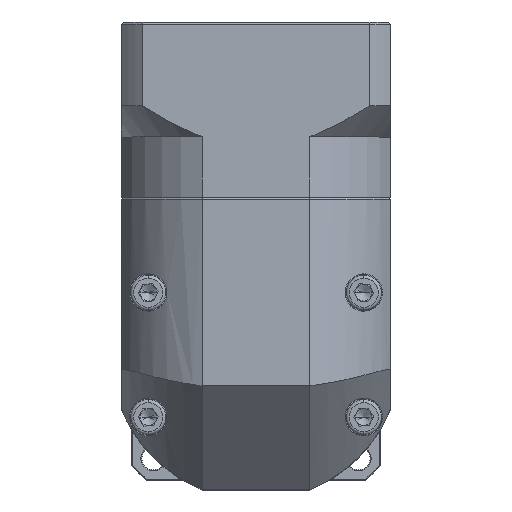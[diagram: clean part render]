
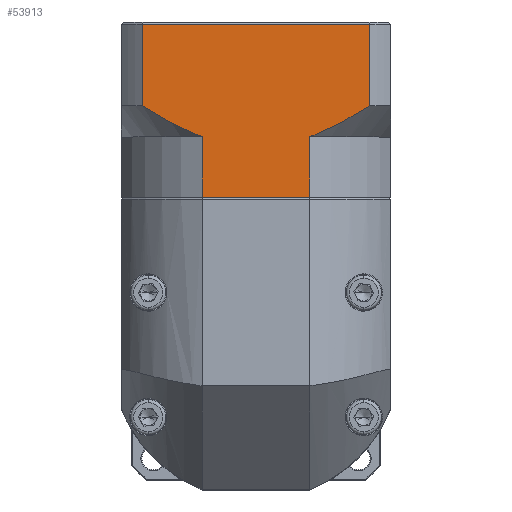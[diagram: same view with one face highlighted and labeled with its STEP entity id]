
A CAD part, top view. The second image highlights one B-rep face of the part: STEP entity #53913.
In plain terms, the highlighted planar face has unit normal (0, 0, 1).
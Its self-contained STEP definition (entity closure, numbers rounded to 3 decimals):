
#948 = EDGE_CURVE ( 'NONE', #3319, #106569, #97954, .T. ) ;
#2909 = CARTESIAN_POINT ( 'NONE',  ( -81.062, 111.871, 47.226 ) ) ;
#3319 = VERTEX_POINT ( 'NONE', #39475 ) ;
#4909 = VECTOR ( 'NONE', #69705, 1000. ) ;
#5119 = VECTOR ( 'NONE', #110221, 1000. ) ;
#5604 = CARTESIAN_POINT ( 'NONE',  ( -71.324, 89.338, 47.226 ) ) ;
#10260 = ORIENTED_EDGE ( 'NONE', *, *, #103154, .T. ) ;
#11813 = CARTESIAN_POINT ( 'NONE',  ( -21.176, 84.671, 47.226 ) ) ;
#11871 = PLANE ( 'NONE',  #84103 ) ;
#12140 = VECTOR ( 'NONE', #37742, 1000. ) ;
#13741 = B_SPLINE_CURVE_WITH_KNOTS ( 'NONE', 3,
 ( #59563, #59191, #67348, #5604, #85579, #51013, #42010, #76649 ),
 .UNSPECIFIED., .F., .F.,
 ( 4, 2, 2, 4 ),
 ( 0.058, 0.062, 0.066, 0.074 ),
 .UNSPECIFIED. ) ;
#14736 = VERTEX_POINT ( 'NONE', #51923 ) ;
#20754 = DIRECTION ( 'NONE',  ( 0., 1., 0. ) ) ;
#23123 = CARTESIAN_POINT ( 'NONE',  ( -33.029, 85.688, 47.226 ) ) ;
#24933 = VERTEX_POINT ( 'NONE', #44761 ) ;
#25151 = CARTESIAN_POINT ( 'NONE',  ( -61.552, 70.171, 47.226 ) ) ;
#27262 = VECTOR ( 'NONE', #38273, 1000. ) ;
#28402 = VECTOR ( 'NONE', #46201, 1000. ) ;
#28975 = FACE_OUTER_BOUND ( 'NONE', #89103, .T. ) ;
#29019 = B_SPLINE_CURVE_WITH_KNOTS ( 'NONE', 3,
 ( #66677, #94493, #58908, #23123, #111113, #76373, #49959, #84894, #41338, #49173 ),
 .UNSPECIFIED., .F., .F.,
 ( 4, 2, 2, 2, 4 ),
 ( 0.101, 0.103, 0.105, 0.109, 0.117 ),
 .UNSPECIFIED. ) ;
#37742 = DIRECTION ( 'NONE',  ( 0., -1., 0. ) ) ;
#38273 = DIRECTION ( 'NONE',  ( 0., 1., 0. ) ) ;
#39475 = CARTESIAN_POINT ( 'NONE',  ( -75.948, 92.171, 47.226 ) ) ;
#41338 = CARTESIAN_POINT ( 'NONE',  ( -23.444, 90.71, 47.226 ) ) ;
#42010 = CARTESIAN_POINT ( 'NONE',  ( -64.09, 85.613, 47.226 ) ) ;
#44761 = CARTESIAN_POINT ( 'NONE',  ( -35.571, 70.171, 47.226 ) ) ;
#45814 = CARTESIAN_POINT ( 'NONE',  ( -81.062, 70.171, 47.226 ) ) ;
#46201 = DIRECTION ( 'NONE',  ( 1., 0., 0. ) ) ;
#46715 = LINE ( 'NONE', #2909, #5119 ) ;
#46850 = ORIENTED_EDGE ( 'NONE', *, *, #948, .F. ) ;
#47989 = CARTESIAN_POINT ( 'NONE',  ( -75.948, 84.671, 47.226 ) ) ;
#49076 = CARTESIAN_POINT ( 'NONE',  ( -81.062, 112.371, 47.226 ) ) ;
#49173 = CARTESIAN_POINT ( 'NONE',  ( -21.176, 92.171, 47.226 ) ) ;
#49921 = EDGE_CURVE ( 'NONE', #87804, #24933, #81231, .T. ) ;
#49959 = CARTESIAN_POINT ( 'NONE',  ( -29.339, 87.417, 47.226 ) ) ;
#51013 = CARTESIAN_POINT ( 'NONE',  ( -66.542, 86.758, 47.226 ) ) ;
#51923 = CARTESIAN_POINT ( 'NONE',  ( -21.176, 111.871, 47.226 ) ) ;
#53913 = ADVANCED_FACE ( 'NONE', ( #28975 ), #11871, .F. ) ;
#56889 = EDGE_CURVE ( 'NONE', #102868, #107144, #29019, .T. ) ;
#57524 = CARTESIAN_POINT ( 'NONE',  ( -61.552, 84.671, 47.226 ) ) ;
#58908 = CARTESIAN_POINT ( 'NONE',  ( -34.29, 85.162, 47.226 ) ) ;
#59191 = CARTESIAN_POINT ( 'NONE',  ( -74.81, 91.438, 47.226 ) ) ;
#59404 = LINE ( 'NONE', #11813, #12140 ) ;
#59563 = CARTESIAN_POINT ( 'NONE',  ( -75.948, 92.171, 47.226 ) ) ;
#63646 = CARTESIAN_POINT ( 'NONE',  ( -21.176, 92.171, 47.226 ) ) ;
#64852 = VERTEX_POINT ( 'NONE', #57524 ) ;
#65336 = ORIENTED_EDGE ( 'NONE', *, *, #56889, .T. ) ;
#66677 = CARTESIAN_POINT ( 'NONE',  ( -35.571, 84.671, 47.226 ) ) ;
#67348 = CARTESIAN_POINT ( 'NONE',  ( -73.659, 90.723, 47.226 ) ) ;
#69705 = DIRECTION ( 'NONE',  ( 0., -1., 0. ) ) ;
#73984 = DIRECTION ( 'NONE',  ( 0., 0., -1. ) ) ;
#75744 = LINE ( 'NONE', #95186, #4909 ) ;
#76373 = CARTESIAN_POINT ( 'NONE',  ( -30.551, 86.812, 47.226 ) ) ;
#76649 = CARTESIAN_POINT ( 'NONE',  ( -61.552, 84.671, 47.226 ) ) ;
#81231 = LINE ( 'NONE', #45814, #28402 ) ;
#82183 = ORIENTED_EDGE ( 'NONE', *, *, #104939, .F. ) ;
#83092 = EDGE_CURVE ( 'NONE', #102868, #24933, #75744, .T. ) ;
#84103 = AXIS2_PLACEMENT_3D ( 'NONE', #49076, #73984, #20754 ) ;
#84773 = ORIENTED_EDGE ( 'NONE', *, *, #97521, .T. ) ;
#84894 = CARTESIAN_POINT ( 'NONE',  ( -25.758, 89.322, 47.226 ) ) ;
#85262 = CARTESIAN_POINT ( 'NONE',  ( -61.552, 84.671, 47.226 ) ) ;
#85579 = CARTESIAN_POINT ( 'NONE',  ( -70.138, 88.668, 47.226 ) ) ;
#87237 = ORIENTED_EDGE ( 'NONE', *, *, #83092, .F. ) ;
#87804 = VERTEX_POINT ( 'NONE', #25151 ) ;
#89103 = EDGE_LOOP ( 'NONE', ( #91509, #84773, #46850, #10260, #82183, #114849, #87237, #65336 ) ) ;
#91509 = ORIENTED_EDGE ( 'NONE', *, *, #105860, .F. ) ;
#92745 = CARTESIAN_POINT ( 'NONE',  ( -75.948, 111.871, 47.226 ) ) ;
#94328 = LINE ( 'NONE', #85262, #113651 ) ;
#94493 = CARTESIAN_POINT ( 'NONE',  ( -34.929, 84.91, 47.226 ) ) ;
#95186 = CARTESIAN_POINT ( 'NONE',  ( -35.571, 84.671, 47.226 ) ) ;
#97521 = EDGE_CURVE ( 'NONE', #14736, #106569, #46715, .T. ) ;
#97954 = LINE ( 'NONE', #47989, #27262 ) ;
#102868 = VERTEX_POINT ( 'NONE', #106387 ) ;
#103154 = EDGE_CURVE ( 'NONE', #3319, #64852, #13741, .T. ) ;
#104939 = EDGE_CURVE ( 'NONE', #87804, #64852, #94328, .T. ) ;
#105860 = EDGE_CURVE ( 'NONE', #14736, #107144, #59404, .T. ) ;
#106387 = CARTESIAN_POINT ( 'NONE',  ( -35.571, 84.671, 47.226 ) ) ;
#106569 = VERTEX_POINT ( 'NONE', #92745 ) ;
#107144 = VERTEX_POINT ( 'NONE', #63646 ) ;
#110221 = DIRECTION ( 'NONE',  ( -1., 0., 0. ) ) ;
#110686 = DIRECTION ( 'NONE',  ( 0., 1., 0. ) ) ;
#111113 = CARTESIAN_POINT ( 'NONE',  ( -32.405, 85.962, 47.226 ) ) ;
#113651 = VECTOR ( 'NONE', #110686, 1000. ) ;
#114849 = ORIENTED_EDGE ( 'NONE', *, *, #49921, .T. ) ;
